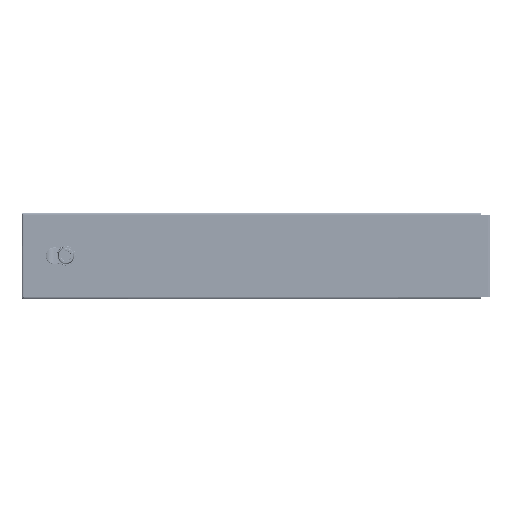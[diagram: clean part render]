
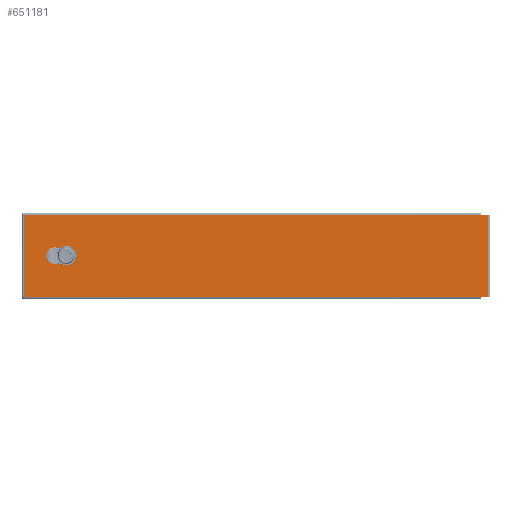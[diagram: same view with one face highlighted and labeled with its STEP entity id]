
A CAD part, top view. The second image highlights one B-rep face of the part: STEP entity #651181.
In plain terms, the highlighted planar face has unit normal (0, 0, 1).
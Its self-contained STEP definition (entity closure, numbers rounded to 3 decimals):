
#648381=CARTESIAN_POINT(' ',(337.885,104.96,78.753));
#648382=VERTEX_POINT(' ',#648381);
#650111=CARTESIAN_POINT(' ',(337.885,104.96,78.753));
#650116=DIRECTION(' ',(-1.,0.,0.));
#650121=VECTOR(' ',#650116,1.);
#650126=LINE('',#650111,#650121);
#650131=CARTESIAN_POINT(' ',(-437.315,104.96,78.753));
#650132=VERTEX_POINT(' ',#650131);
#650136=EDGE_CURVE(' ',#648382,#650132,#650126,.T.);
#650436=CARTESIAN_POINT(' ',(351.085,104.96,78.753));
#650441=DIRECTION(' ',(-1.,0.,0.));
#650446=VECTOR(' ',#650441,1.);
#650451=LINE('',#650436,#650446);
#650456=CARTESIAN_POINT(' ',(351.085,104.96,78.753));
#650457=VERTEX_POINT(' ',#650456);
#650461=EDGE_CURVE(' ',#650457,#648382,#650451,.T.);
#651001=DIRECTION(' ',(-0.,-0.,1.));
#651006=CARTESIAN_POINT(' ',(351.085,-34.44,78.753));
#651011=DIRECTION(' ',(0.,1.,0.));
#651016=AXIS2_PLACEMENT_3D(' ',#651006,#651001,#651011);
#651021=PLANE('NONE',#651016);
#651026=CARTESIAN_POINT(' ',(-437.315,-34.44,78.753));
#651031=DIRECTION(' ',(1.,0.,0.));
#651036=VECTOR(' ',#651031,1.);
#651041=LINE('',#651026,#651036);
#651046=CARTESIAN_POINT(' ',(-437.315,-34.44,78.753));
#651047=VERTEX_POINT(' ',#651046);
#651051=CARTESIAN_POINT(' ',(337.885,-34.44,78.753));
#651052=VERTEX_POINT(' ',#651051);
#651056=EDGE_CURVE(' ',#651047,#651052,#651041,.T.);
#651061=ORIENTED_EDGE(' ',*,*,#651056,.T.);
#651066=CARTESIAN_POINT(' ',(337.885,-34.44,78.753));
#651071=DIRECTION(' ',(1.,0.,0.));
#651076=VECTOR(' ',#651071,1.);
#651081=LINE('',#651066,#651076);
#651086=CARTESIAN_POINT(' ',(351.085,-34.44,78.753));
#651087=VERTEX_POINT(' ',#651086);
#651091=EDGE_CURVE(' ',#651052,#651087,#651081,.T.);
#651096=ORIENTED_EDGE(' ',*,*,#651091,.T.);
#651101=CARTESIAN_POINT(' ',(351.085,104.96,78.753));
#651106=DIRECTION(' ',(0.,-1.,0.));
#651111=VECTOR(' ',#651106,1.);
#651116=LINE('',#651101,#651111);
#651121=EDGE_CURVE(' ',#650457,#651087,#651116,.T.);
#651126=ORIENTED_EDGE(' ',*,*,#651121,.F.);
#651131=ORIENTED_EDGE(' ',*,*,#650461,.T.);
#651136=ORIENTED_EDGE(' ',*,*,#650136,.T.);
#651141=CARTESIAN_POINT(' ',(-437.315,104.96,78.753));
#651146=DIRECTION(' ',(0.,-1.,0.));
#651151=VECTOR(' ',#651146,1.);
#651156=LINE('',#651141,#651151);
#651161=EDGE_CURVE(' ',#650132,#651047,#651156,.T.);
#651166=ORIENTED_EDGE(' ',*,*,#651161,.T.);
#651171=EDGE_LOOP(' ',(#651061,#651096,#651126,#651131,#651136,#651166));
#651176=FACE_OUTER_BOUND(' ',#651171,.T.);
#651181=ADVANCED_FACE('NONE',(#651176),#651021,.T.);
